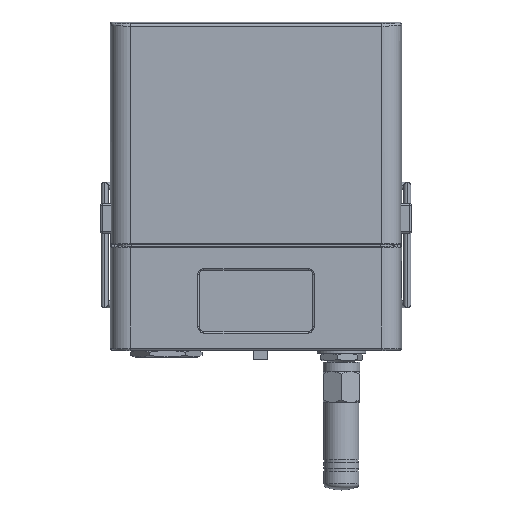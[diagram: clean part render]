
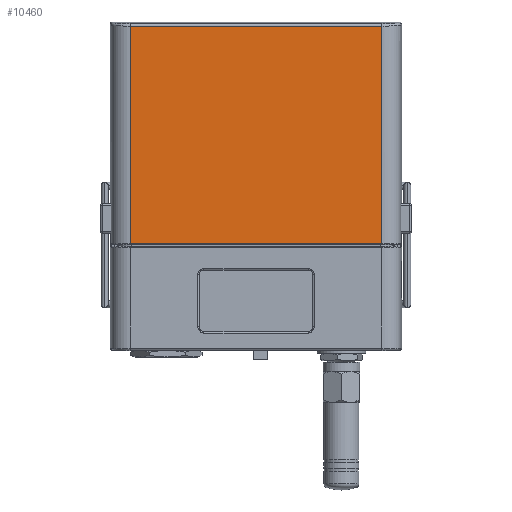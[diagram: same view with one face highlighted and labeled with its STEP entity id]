
A CAD part, left-side view. The second image highlights one B-rep face of the part: STEP entity #10460.
In plain terms, the highlighted planar face has unit normal (-1, 0, -0.006) as drawn and (-1, 0, 0) by its records, which use the part's own axes.
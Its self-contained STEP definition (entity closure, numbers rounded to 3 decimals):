
#8957=DIRECTION('',(0.,0.,1.));
#8958=VECTOR('',#8957,46.003);
#8959=CARTESIAN_POINT('',(-9.,-26.618,-22.8));
#8960=LINE('',#8959,#8958);
#8965=DIRECTION('',(0.,-1.,0.));
#8966=VECTOR('',#8965,53.237);
#8967=CARTESIAN_POINT('',(-9.,26.618,-22.8));
#8968=LINE('',#8967,#8966);
#8992=DIRECTION('',(0.,0.,-1.));
#8993=VECTOR('',#8992,46.003);
#8994=CARTESIAN_POINT('',(-9.,26.618,23.203));
#8995=LINE('',#8994,#8993);
#9615=DIRECTION('',(0.,1.,0.));
#9616=VECTOR('',#9615,53.237);
#9617=CARTESIAN_POINT('',(-9.,-26.618,
23.203));
#9618=LINE('',#9617,#9616);
#10215=CARTESIAN_POINT('',(-9.,26.618,23.203));
#10216=VERTEX_POINT('',#10215);
#10217=CARTESIAN_POINT('',(-9.,-26.618,23.203));
#10218=VERTEX_POINT('',#10217);
#10229=CARTESIAN_POINT('',(-9.,-26.618,-22.8));
#10230=VERTEX_POINT('',#10229);
#10231=CARTESIAN_POINT('',(-9.,26.618,-22.8));
#10232=VERTEX_POINT('',#10231);
#10446=CARTESIAN_POINT('',(-9.,-26.618,24.));
#10447=DIRECTION('',(-1.,0.,0.));
#10448=DIRECTION('',(0.,1.,0.));
#10449=AXIS2_PLACEMENT_3D('',#10446,#10447,#10448);
#10450=PLANE('',#10449);
#10452=ORIENTED_EDGE('',*,*,#10451,.F.);
#10454=ORIENTED_EDGE('',*,*,#10453,.F.);
#10456=ORIENTED_EDGE('',*,*,#10455,.F.);
#10457=ORIENTED_EDGE('',*,*,#10437,.F.);
#10458=EDGE_LOOP('',(#10452,#10454,#10456,#10457));
#10459=FACE_OUTER_BOUND('',#10458,.F.);
#10460=ADVANCED_FACE('',(#10459),#10450,.T.);
#10437=EDGE_CURVE('',#10230,#10218,#8960,.T.);
#10451=EDGE_CURVE('',#10232,#10230,#8968,.T.);
#10453=EDGE_CURVE('',#10216,#10232,#8995,.T.);
#10455=EDGE_CURVE('',#10218,#10216,#9618,.T.);
